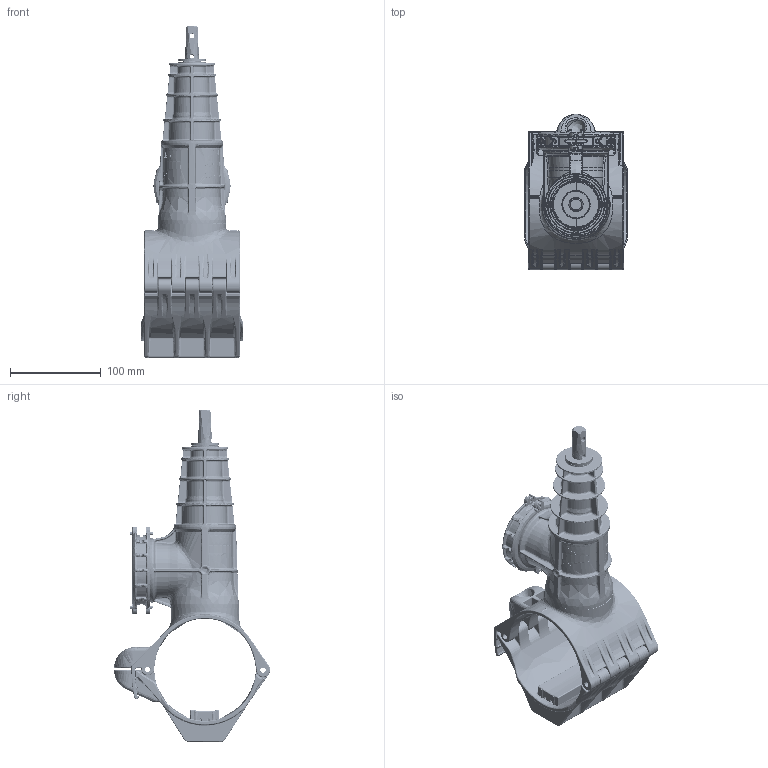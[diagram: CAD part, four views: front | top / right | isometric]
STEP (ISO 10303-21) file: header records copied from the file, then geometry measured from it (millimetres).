
FILE_DESCRIPTION(('STEP AP214'),'1');
FILE_NAME('709326.stp','2019-05-15T19:26:03',('CAD-PIM'),('TransMagic, Inc.'),'TMR12sp0','TransMagic R12',' ');
FILE_SCHEMA(('AUTOMOTIVE_DESIGN'));
Length unit declared in the file: millimetre
Products named in the file (1): 709326 (1)
Bounding box: 113 x 171.49 x 365.46 mm (x, y, z)
Volume: 976274.6 mm3; surface area: 221250.4 mm2
Topology: 1 solids, 1 shells, 5057 faces, 12705 edges, 7525 vertices
Faces by surface type: bspline 5057
Entity records: 371555 total; most frequent: CARTESIAN_POINT 141064, STYLED_ITEM 25041, PRESENTATION_STYLE_ASSIGNMENT 25041, COLOUR_RGB 25041, ORIENTED_EDGE 24916, EDGE_CURVE 12458, CURVE_STYLE 12458, DRAUGHTING_PRE_DEFINED_CURVE_FONT 12458
